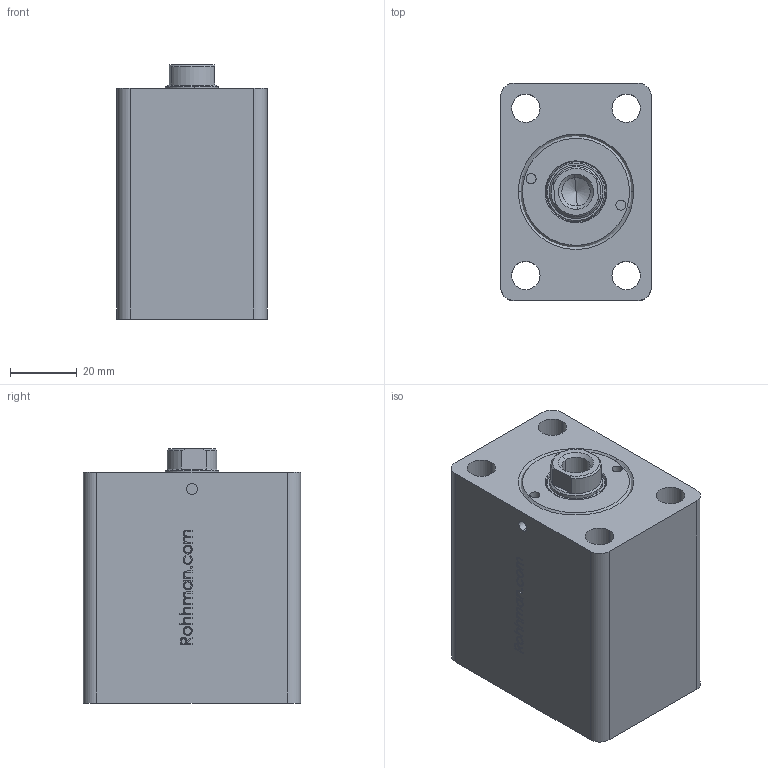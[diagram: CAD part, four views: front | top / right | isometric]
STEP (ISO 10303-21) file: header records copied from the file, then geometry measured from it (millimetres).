
FILE_DESCRIPTION (( 'STEP AP214' ), '1' );
FILE_NAME ('KBZ_02_25_16_25.STEP', '2022-09-03T16:13:14', ( '' ), ( '' ), 'SwSTEP 2.0', 'SolidWorks 2021', '' );
FILE_SCHEMA (( 'AUTOMOTIVE_DESIGN' ));
Length unit declared in the file: millimetre
Products named in the file (9): KO-22X2_5; K22-16X20_5X5; KBZ_02_25_25_GOVDE_WEB; 16_18_PAP_16_18_5_PAP; KBZ_02_25_16_25; KBZ_03_25_16_烰_KAPAK; KBZ_03_25_16_ON_KAPAK; 16_K_MIL_WEB; K06-16X22_8X3_1X4 (K016_3)
Assembly tree (8 placements, depth 3):
  KBZ_02_25_16_25
    KBZ_02_25_25_GOVDE_WEB
    16_K_MIL_WEB
    KBZ_03_25_16_烰_KAPAK
      KBZ_03_25_16_ON_KAPAK
      K22-16X20_5X5
      K06-16X22_8X3_1X4 (K016_3)
      KO-22X2_5
      16_18_PAP_16_18_5_PAP
Bounding box: 45 x 65 x 76 mm (x, y, z)
Volume: 164878.3 mm3; surface area: 46087.9 mm2
Topology: 7 solids, 7 shells, 386 faces, 921 edges, 580 vertices
Faces by surface type: bspline 130, plane 116, cylinder 79, cone 53, torus 8
Entity records: 16701 total; most frequent: CARTESIAN_POINT 8074, ORIENTED_EDGE 1838, DIRECTION 1406, EDGE_CURVE 919, VERTEX_POINT 580, AXIS2_PLACEMENT_3D 492, EDGE_LOOP 443, LINE 422
